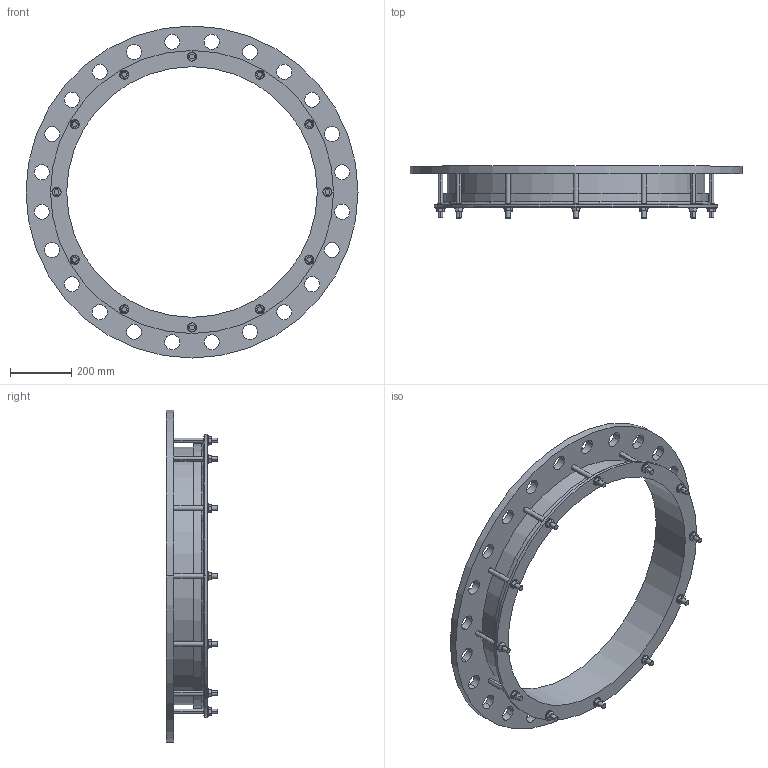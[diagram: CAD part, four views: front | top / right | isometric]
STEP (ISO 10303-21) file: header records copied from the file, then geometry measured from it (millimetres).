
FILE_DESCRIPTION((''),'2;1');
FILE_NAME('816X800PN25','2019-04-04T',('mfairey'),('Glynwed Pipe Systems'),'CREO PARAMETRIC BY PTC INC, 2016130','CREO PARAMETRIC BY PTC INC, 2016130','');
FILE_SCHEMA(('CONFIG_CONTROL_DESIGN'));
Length unit declared in the file: millimetre
Products named in the file (1): 816X800PN25
Bounding box: 1085 x 169 x 1085 mm (x, y, z)
Volume: 14697177.1 mm3; surface area: 1819512.4 mm2
Topology: 1 solids, 1 shells, 246 faces, 650 edges, 432 vertices
Faces by surface type: cylinder 128, plane 112, cone 4, torus 2
Entity records: 8666 total; most frequent: CARTESIAN_POINT 2220, DIRECTION 1340, ORIENTED_EDGE 1300, EDGE_CURVE 650, AXIS2_PLACEMENT_3D 496, VERTEX_POINT 432, VECTOR 348, LINE 348
